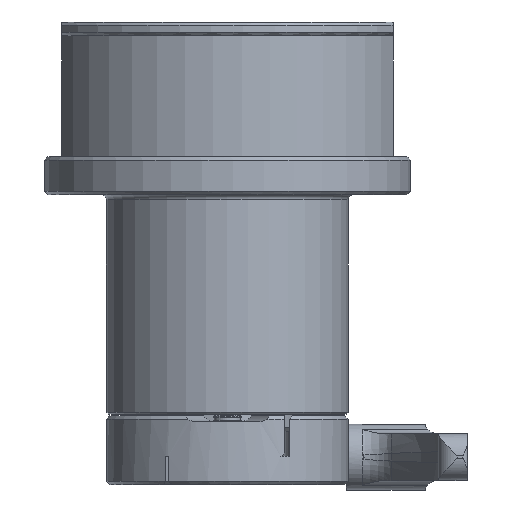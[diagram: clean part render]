
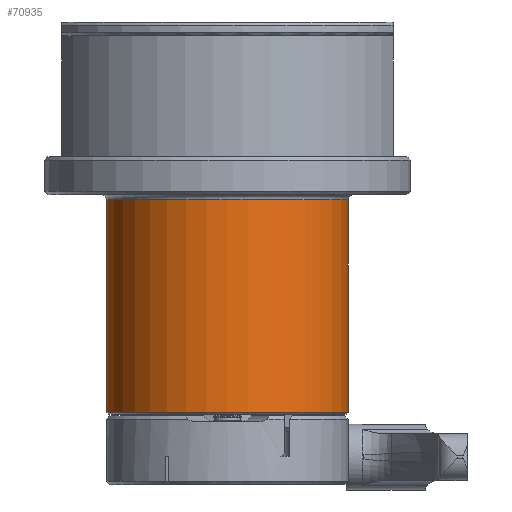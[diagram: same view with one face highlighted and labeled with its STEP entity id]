
A CAD part, left-side view. The second image highlights one B-rep face of the part: STEP entity #70935.
In plain terms, the highlighted cylindrical face has radius 35 mm (diameter 70 mm), a partial arc.
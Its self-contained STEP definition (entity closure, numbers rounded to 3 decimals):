
#10079=DIRECTION('',(0.,0.,-1.));
#10080=VECTOR('',#10079,61.5);
#10081=CARTESIAN_POINT('',(0.,35.,5.25));
#10082=LINE('',#10081,#10080);
#10088=DIRECTION('',(0.,0.,1.));
#10089=VECTOR('',#10088,61.5);
#10090=CARTESIAN_POINT('',(0.,-35.,
-56.25));
#10091=LINE('',#10090,#10089);
#10097=CARTESIAN_POINT('',(0.,0.,5.25));
#10098=DIRECTION('',(0.,0.,1.));
#10099=DIRECTION('',(0.,1.,0.));
#10100=AXIS2_PLACEMENT_3D('',#10097,#10098,#10099);
#10102=CARTESIAN_POINT('',(0.,0.,-56.25));
#10103=DIRECTION('',(0.,0.,1.));
#10104=DIRECTION('',(0.,1.,0.));
#10105=AXIS2_PLACEMENT_3D('',#10102,#10103,#10104);
#53056=CARTESIAN_POINT('',(0.,-35.,5.25));
#53057=VERTEX_POINT('',#53056);
#53058=CARTESIAN_POINT('',(0.,35.,5.25));
#53059=VERTEX_POINT('',#53058);
#55789=CARTESIAN_POINT('',(0.,35.,-56.25));
#55790=CARTESIAN_POINT('',(0.,-35.,-56.25));
#55791=VERTEX_POINT('',#55789);
#55792=VERTEX_POINT('',#55790);
#70923=CARTESIAN_POINT('',(0.,0.,6.39));
#70924=DIRECTION('',(0.,0.,-1.));
#70925=DIRECTION('',(0.,-1.,0.));
#70926=AXIS2_PLACEMENT_3D('',#70923,#70924,#70925);
#70927=CYLINDRICAL_SURFACE('',#70926,35.);
#70928=ORIENTED_EDGE('',*,*,#70910,.F.);
#70930=ORIENTED_EDGE('',*,*,#70929,.F.);
#70931=ORIENTED_EDGE('',*,*,#70906,.F.);
#70932=ORIENTED_EDGE('',*,*,#70867,.T.);
#70933=EDGE_LOOP('',(#70928,#70930,#70931,#70932));
#70934=FACE_OUTER_BOUND('',#70933,.F.);
#10101=CIRCLE('',#10100,35.);
#10106=CIRCLE('',#10105,35.);
#70867=EDGE_CURVE('',#53059,#53057,#10101,.T.);
#70906=EDGE_CURVE('',#53059,#55791,#10082,.T.);
#70910=EDGE_CURVE('',#55792,#53057,#10091,.T.);
#70929=EDGE_CURVE('',#55791,#55792,#10106,.T.);
#70935=ADVANCED_FACE('',(#70934),#70927,.T.);
